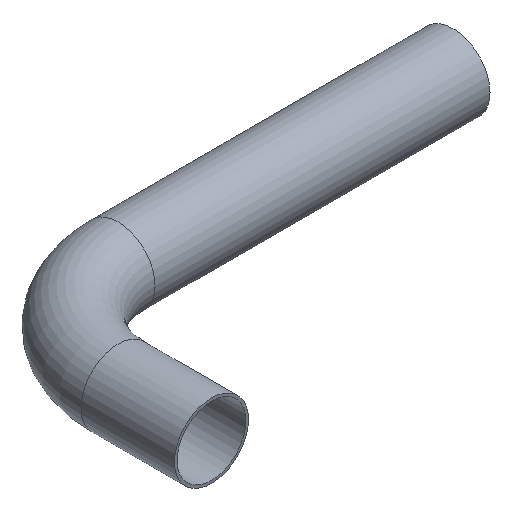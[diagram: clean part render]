
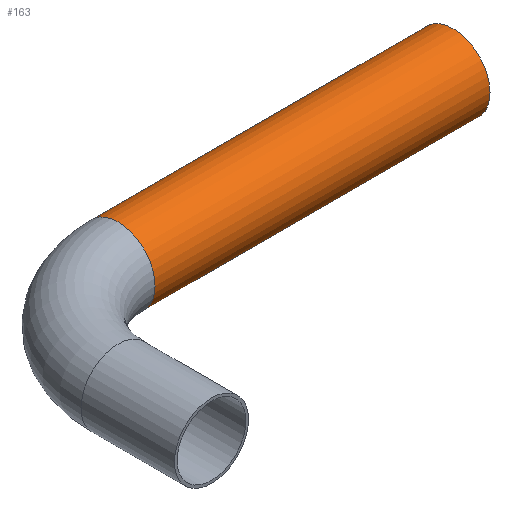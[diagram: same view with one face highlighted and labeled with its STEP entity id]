
A CAD part, isometric view. The second image highlights one B-rep face of the part: STEP entity #163.
In plain terms, the highlighted cylindrical face has radius 21 mm (diameter 42 mm), a full revolution.
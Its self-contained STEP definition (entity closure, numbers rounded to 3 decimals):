
#136=CARTESIAN_POINT('',(0.,60.0,0.0));
#137=DIRECTION('',(1.0,0.,0.0));
#138=DIRECTION('',(0.0,-1.0,0.0));
#139=AXIS2_PLACEMENT_3D('',#136,#137,#138);
#140=CYLINDRICAL_SURFACE('',#139,21.0);
#141=CARTESIAN_POINT('',(190.0,81.,0.));
#142=VERTEX_POINT('',#141);
#143=CARTESIAN_POINT('',(190.0,60.,0.0));
#144=DIRECTION('',(-1.0,0.0,0.0));
#145=DIRECTION('',(0.0,-1.0,0.0));
#146=AXIS2_PLACEMENT_3D('',#143,#144,#145);
#147=CIRCLE('',#146,21.0);
#148=EDGE_CURVE('',#142,#142,#147,.T.);
#149=ORIENTED_EDGE('',*,*,#148,.T.);
#150=EDGE_LOOP('',(#149));
#151=FACE_OUTER_BOUND('',#150,.T.);
#152=CARTESIAN_POINT('',(0.,81.0,0.));
#153=VERTEX_POINT('',#152);
#154=CARTESIAN_POINT('',(0.,60.0,0.0));
#155=DIRECTION('',(-1.0,0.0,0.0));
#156=DIRECTION('',(0.0,-1.0,0.0));
#157=AXIS2_PLACEMENT_3D('',#154,#155,#156);
#158=CIRCLE('',#157,21.0);
#159=EDGE_CURVE('',#153,#153,#158,.T.);
#160=ORIENTED_EDGE('',*,*,#159,.F.);
#161=EDGE_LOOP('',(#160));
#162=FACE_BOUND('',#161,.T.);
#163=ADVANCED_FACE('',(#151,#162),#140,.T.);
